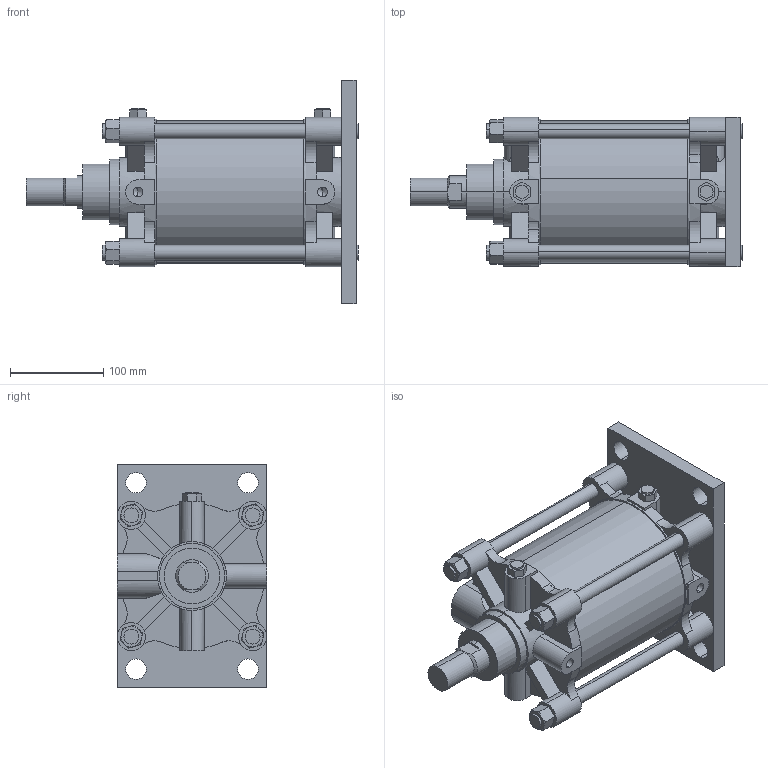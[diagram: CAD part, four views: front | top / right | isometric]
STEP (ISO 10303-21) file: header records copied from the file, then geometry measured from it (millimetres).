
FILE_DESCRIPTION (( 'STEP AP203' ), '1' );
FILE_NAME ('A##2-140#-100-B.STEP', '2016-03-31T06:53:02', ( '' ), ( '' ), 'SwSTEP 2.0', 'SolidWorks 2014', '' );
FILE_SCHEMA (( 'CONFIG_CONTROL_DESIGN' ));
Length unit declared in the file: millimetre
Products named in the file (7): A140-AB; A##2-140#-100-B; A140-100; A140-B; A140-A
Assembly tree (12 placements, depth 2):
  A##2-140#-100-B
    A140-B
    A140-100
    A140-A
    (unnamed)  x4
    (unnamed)  x4
    A140-AB
Bounding box: 356 x 160 x 240 mm (x, y, z)
Volume: 4952996.5 mm3; surface area: 470446.2 mm2
Topology: 12 solids, 14 shells, 344 faces, 888 edges, 572 vertices
Faces by surface type: plane 172, cylinder 134, torus 24, cone 14
Entity records: 10360 total; most frequent: CARTESIAN_POINT 2076, DIRECTION 1642, ORIENTED_EDGE 1500, EDGE_CURVE 750, AXIS2_PLACEMENT_3D 627, VERTEX_POINT 494, LINE 388, VECTOR 388
